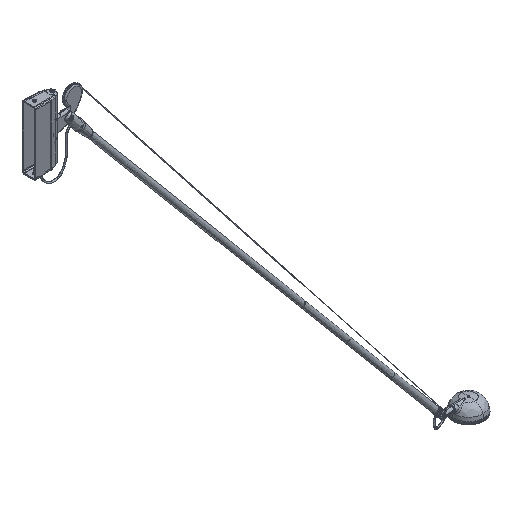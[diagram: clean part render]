
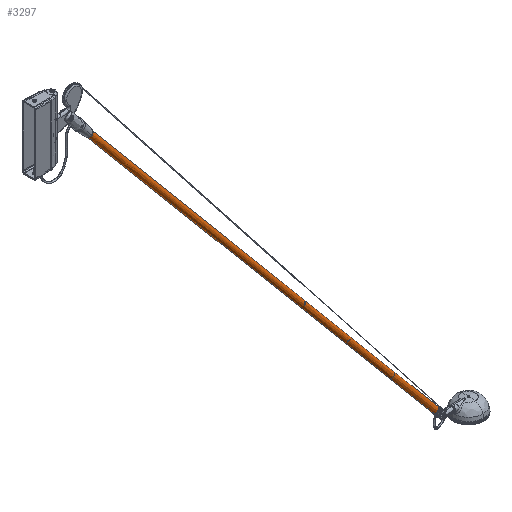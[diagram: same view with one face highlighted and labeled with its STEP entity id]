
A CAD part, isometric view. The second image highlights one B-rep face of the part: STEP entity #3297.
In plain terms, the highlighted free-form (B-spline) face has degree [2, 1] with [9, 2] control points.
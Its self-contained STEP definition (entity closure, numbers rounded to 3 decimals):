
#3297=ADVANCED_FACE('',(#6553),#47774,.T.);
#6553=FACE_OUTER_BOUND('',#10369,.T.);
#10369=EDGE_LOOP('',(#22182,#22183,#22184,#22185,#22186,#22187,#22188,#22189,
#22190,#22191,#22192,#22193));
#22182=ORIENTED_EDGE('',*,*,#31248,.F.);
#22183=ORIENTED_EDGE('',*,*,#31263,.T.);
#22184=ORIENTED_EDGE('',*,*,#31264,.T.);
#22185=ORIENTED_EDGE('',*,*,#31265,.T.);
#22186=ORIENTED_EDGE('',*,*,#31266,.T.);
#22187=ORIENTED_EDGE('',*,*,#31267,.T.);
#22188=ORIENTED_EDGE('',*,*,#31254,.F.);
#22189=ORIENTED_EDGE('',*,*,#31268,.T.);
#22190=ORIENTED_EDGE('',*,*,#31269,.T.);
#22191=ORIENTED_EDGE('',*,*,#31270,.T.);
#22192=ORIENTED_EDGE('',*,*,#31271,.T.);
#22193=ORIENTED_EDGE('',*,*,#31272,.T.);
#31248=EDGE_CURVE('',#43886,#43887,#39080,.T.);
#31254=EDGE_CURVE('',#43892,#43893,#39083,.T.);
#31263=EDGE_CURVE('',#43886,#43901,#36267,.T.);
#31264=EDGE_CURVE('',#43901,#43902,#39090,.T.);
#31265=EDGE_CURVE('',#43902,#43903,#36268,.T.);
#31266=EDGE_CURVE('',#43903,#43904,#39091,.T.);
#31267=EDGE_CURVE('',#43904,#43893,#36269,.T.);
#31268=EDGE_CURVE('',#43892,#43898,#36270,.T.);
#31269=EDGE_CURVE('',#43898,#43905,#39092,.T.);
#31270=EDGE_CURVE('',#43905,#43906,#36271,.T.);
#31271=EDGE_CURVE('',#43906,#43899,#39093,.T.);
#31272=EDGE_CURVE('',#43899,#43887,#36272,.T.);
#36267=(
BOUNDED_CURVE()
B_SPLINE_CURVE(2,(#117143,#117144,#117145),.UNSPECIFIED.,.F.,.F.)
B_SPLINE_CURVE_WITH_KNOTS((3,3),(0.,11.564),.UNSPECIFIED.)
CURVE()
GEOMETRIC_REPRESENTATION_ITEM()
RATIONAL_B_SPLINE_CURVE((1.,0.75,1.))
REPRESENTATION_ITEM('')
);
#36268=(
BOUNDED_CURVE()
B_SPLINE_CURVE(2,(#117148,#117149,#117150),.UNSPECIFIED.,.F.,.F.)
B_SPLINE_CURVE_WITH_KNOTS((3,3),(0.,2.005),.UNSPECIFIED.)
CURVE()
GEOMETRIC_REPRESENTATION_ITEM()
RATIONAL_B_SPLINE_CURVE((1.,0.992,1.))
REPRESENTATION_ITEM('')
);
#36269=(
BOUNDED_CURVE()
B_SPLINE_CURVE(2,(#117153,#117154,#117155),.UNSPECIFIED.,.F.,.F.)
B_SPLINE_CURVE_WITH_KNOTS((3,3),(0.,11.564),.UNSPECIFIED.)
CURVE()
GEOMETRIC_REPRESENTATION_ITEM()
RATIONAL_B_SPLINE_CURVE((1.,0.75,1.))
REPRESENTATION_ITEM('')
);
#36270=(
BOUNDED_CURVE()
B_SPLINE_CURVE(2,(#117156,#117157,#117158),.UNSPECIFIED.,.F.,.F.)
B_SPLINE_CURVE_WITH_KNOTS((3,3),(0.,10.545),.UNSPECIFIED.)
CURVE()
GEOMETRIC_REPRESENTATION_ITEM()
RATIONAL_B_SPLINE_CURVE((1.,0.791,1.))
REPRESENTATION_ITEM('')
);
#36271=(
BOUNDED_CURVE()
B_SPLINE_CURVE(2,(#117161,#117162,#117163),.UNSPECIFIED.,.F.,.F.)
B_SPLINE_CURVE_WITH_KNOTS((3,3),(0.,4.043),.UNSPECIFIED.)
CURVE()
GEOMETRIC_REPRESENTATION_ITEM()
RATIONAL_B_SPLINE_CURVE((1.,0.968,1.))
REPRESENTATION_ITEM('')
);
#36272=(
BOUNDED_CURVE()
B_SPLINE_CURVE(2,(#117166,#117167,#117168),.UNSPECIFIED.,.F.,.F.)
B_SPLINE_CURVE_WITH_KNOTS((3,3),(0.,10.545),.UNSPECIFIED.)
CURVE()
GEOMETRIC_REPRESENTATION_ITEM()
RATIONAL_B_SPLINE_CURVE((1.,0.791,1.))
REPRESENTATION_ITEM('')
);
#39080=B_SPLINE_CURVE_WITH_KNOTS('',1,(#117108,#117109),.UNSPECIFIED.,.F.,
 .F.,(2,2),(0.,1495.),.UNSPECIFIED.);
#39083=B_SPLINE_CURVE_WITH_KNOTS('',1,(#117123,#117124),.UNSPECIFIED.,.F.,
 .F.,(2,2),(0.,1495.),.UNSPECIFIED.);
#39090=B_SPLINE_CURVE_WITH_KNOTS('',1,(#117146,#117147),.UNSPECIFIED.,.F.,
 .F.,(2,2),(0.,1.5),.UNSPECIFIED.);
#39091=B_SPLINE_CURVE_WITH_KNOTS('',1,(#117151,#117152),.UNSPECIFIED.,.F.,
 .F.,(2,2),(0.,1.5),.UNSPECIFIED.);
#39092=B_SPLINE_CURVE_WITH_KNOTS('',1,(#117159,#117160),.UNSPECIFIED.,.F.,
 .F.,(2,2),(0.,7.),.UNSPECIFIED.);
#39093=B_SPLINE_CURVE_WITH_KNOTS('',1,(#117164,#117165),.UNSPECIFIED.,.F.,
 .F.,(2,2),(0.,7.),.UNSPECIFIED.);
#43886=VERTEX_POINT('',#117048);
#43887=VERTEX_POINT('',#117049);
#43892=VERTEX_POINT('',#117054);
#43893=VERTEX_POINT('',#117055);
#43898=VERTEX_POINT('',#117060);
#43899=VERTEX_POINT('',#117061);
#43901=VERTEX_POINT('',#117063);
#43902=VERTEX_POINT('',#117064);
#43903=VERTEX_POINT('',#117065);
#43904=VERTEX_POINT('',#117066);
#43905=VERTEX_POINT('',#117067);
#43906=VERTEX_POINT('',#117068);
#47774=(
BOUNDED_SURFACE()
B_SPLINE_SURFACE(2,1,((#116985,#116986),(#116987,#116988),(#116989,#116990),
(#116991,#116992),(#116993,#116994),(#116995,#116996),(#116997,#116998),
(#116999,#117000),(#117001,#117002)),.UNSPECIFIED.,.T.,.F.,.F.)
B_SPLINE_SURFACE_WITH_KNOTS((3,2,2,2,3),(2,2),(0.,1.571,3.142,
4.712,6.283),(0.,1794.),.UNSPECIFIED.)
GEOMETRIC_REPRESENTATION_ITEM()
RATIONAL_B_SPLINE_SURFACE(((1.,1.),(0.707,0.707),
(1.,1.),(0.707,0.707),(1.,1.),(0.707,
0.707),(1.,1.),(0.707,0.707),(1.,1.)))
REPRESENTATION_ITEM('')
SURFACE()
);
#116985=CARTESIAN_POINT('',(1185.766,-94.44,-717.841));
#116986=CARTESIAN_POINT('',(32.605,-94.44,656.442));
#116987=CARTESIAN_POINT('',(1179.637,-94.44,-722.984));
#116988=CARTESIAN_POINT('',(26.476,-94.44,651.3));
#116989=CARTESIAN_POINT('',(1179.637,-102.44,-722.984));
#116990=CARTESIAN_POINT('',(26.476,-102.44,651.3));
#116991=CARTESIAN_POINT('',(1179.637,-110.44,-722.984));
#116992=CARTESIAN_POINT('',(26.476,-110.44,651.3));
#116993=CARTESIAN_POINT('',(1185.766,-110.44,-717.841));
#116994=CARTESIAN_POINT('',(32.605,-110.44,656.442));
#116995=CARTESIAN_POINT('',(1191.894,-110.44,-712.699));
#116996=CARTESIAN_POINT('',(38.733,-110.44,661.585));
#116997=CARTESIAN_POINT('',(1191.894,-102.44,-712.699));
#116998=CARTESIAN_POINT('',(38.733,-102.44,661.585));
#116999=CARTESIAN_POINT('',(1191.894,-94.44,-712.699));
#117000=CARTESIAN_POINT('',(38.733,-94.44,661.585));
#117001=CARTESIAN_POINT('',(1185.766,-94.44,-717.841));
#117002=CARTESIAN_POINT('',(32.605,-94.44,656.442));
#117048=CARTESIAN_POINT('',(1083.541,-102.44,-608.46));
#117049=CARTESIAN_POINT('',(122.573,-102.44,536.776));
#117054=CARTESIAN_POINT('',(134.83,-102.44,547.061));
#117055=CARTESIAN_POINT('',(1095.797,-102.44,-598.175));
#117060=CARTESIAN_POINT('',(130.233,-110.186,543.204));
#117061=CARTESIAN_POINT('',(127.169,-110.186,540.633));
#117063=CARTESIAN_POINT('',(1088.903,-110.377,-603.961));
#117064=CARTESIAN_POINT('',(1087.939,-110.377,-602.811));
#117065=CARTESIAN_POINT('',(1089.471,-110.377,-601.526));
#117066=CARTESIAN_POINT('',(1090.435,-110.377,-602.675));
#117067=CARTESIAN_POINT('',(134.733,-110.186,537.842));
#117068=CARTESIAN_POINT('',(131.669,-110.186,535.271));
#117108=CARTESIAN_POINT('',(1083.541,-102.44,-608.46));
#117109=CARTESIAN_POINT('',(122.573,-102.44,536.776));
#117123=CARTESIAN_POINT('',(134.83,-102.44,547.061));
#117124=CARTESIAN_POINT('',(1095.797,-102.44,-598.175));
#117143=CARTESIAN_POINT('',(1083.541,-102.44,-608.46));
#117144=CARTESIAN_POINT('',(1083.541,-109.496,-608.46));
#117145=CARTESIAN_POINT('',(1088.903,-110.377,-603.961));
#117146=CARTESIAN_POINT('',(1088.903,-110.377,-603.961));
#117147=CARTESIAN_POINT('',(1087.939,-110.377,-602.811));
#117148=CARTESIAN_POINT('',(1087.939,-110.377,-602.811));
#117149=CARTESIAN_POINT('',(1088.705,-110.503,-602.169));
#117150=CARTESIAN_POINT('',(1089.471,-110.377,-601.526));
#117151=CARTESIAN_POINT('',(1089.471,-110.377,-601.526));
#117152=CARTESIAN_POINT('',(1090.435,-110.377,-602.675));
#117153=CARTESIAN_POINT('',(1090.435,-110.377,-602.675));
#117154=CARTESIAN_POINT('',(1095.797,-109.496,-598.175));
#117155=CARTESIAN_POINT('',(1095.797,-102.44,-598.175));
#117156=CARTESIAN_POINT('',(134.83,-102.44,547.061));
#117157=CARTESIAN_POINT('',(134.83,-108.637,547.061));
#117158=CARTESIAN_POINT('',(130.233,-110.186,543.204));
#117159=CARTESIAN_POINT('',(130.233,-110.186,543.204));
#117160=CARTESIAN_POINT('',(134.733,-110.186,537.842));
#117161=CARTESIAN_POINT('',(134.733,-110.186,537.842));
#117162=CARTESIAN_POINT('',(133.201,-110.703,536.556));
#117163=CARTESIAN_POINT('',(131.669,-110.186,535.271));
#117164=CARTESIAN_POINT('',(131.669,-110.186,535.271));
#117165=CARTESIAN_POINT('',(127.169,-110.186,540.633));
#117166=CARTESIAN_POINT('',(127.169,-110.186,540.633));
#117167=CARTESIAN_POINT('',(122.573,-108.637,536.776));
#117168=CARTESIAN_POINT('',(122.573,-102.44,536.776));
